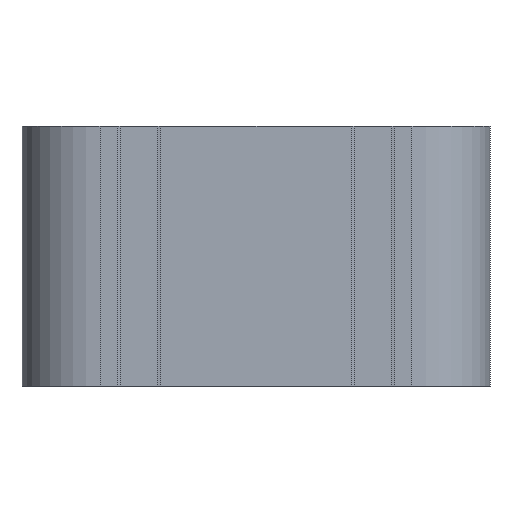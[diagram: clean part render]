
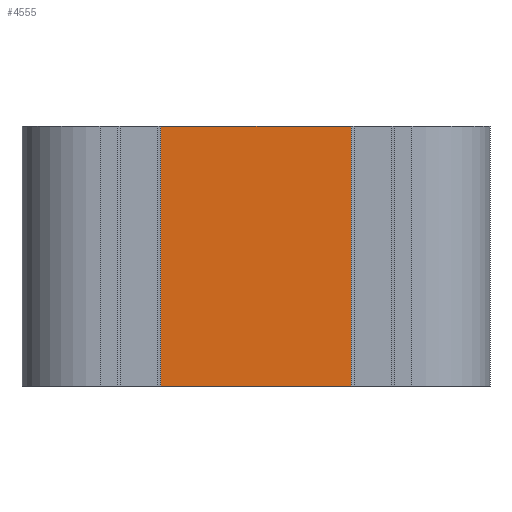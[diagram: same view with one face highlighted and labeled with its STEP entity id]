
A CAD part, front view. The second image highlights one B-rep face of the part: STEP entity #4555.
In plain terms, the highlighted planar face has unit normal (0, -1, 0).
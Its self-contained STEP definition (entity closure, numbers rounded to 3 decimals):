
#255 = DIRECTION ( 'NONE',  ( 0., 0., -1. ) ) ;
#620 = CARTESIAN_POINT ( 'NONE',  ( -19.892, -45.788, 50. ) ) ;
#709 = CARTESIAN_POINT ( 'NONE',  ( 16.802, -45.788, 50. ) ) ;
#887 = ORIENTED_EDGE ( 'NONE', *, *, #5079, .F. ) ;
#937 = AXIS2_PLACEMENT_3D ( 'NONE', #1045, #4296, #4748 ) ;
#954 = CARTESIAN_POINT ( 'NONE',  ( 16.802, -45.788, 50. ) ) ;
#984 = VECTOR ( 'NONE', #2044, 1000. ) ;
#1045 = CARTESIAN_POINT ( 'NONE',  ( -19.892, -45.788, 50. ) ) ;
#1086 = LINE ( 'NONE', #1728, #4331 ) ;
#1101 = CARTESIAN_POINT ( 'NONE',  ( -19.892, -45.788, 0. ) ) ;
#1132 = LINE ( 'NONE', #954, #5961 ) ;
#1670 = ORIENTED_EDGE ( 'NONE', *, *, #3477, .T. ) ;
#1728 = CARTESIAN_POINT ( 'NONE',  ( -19.892, -45.788, 50. ) ) ;
#2044 = DIRECTION ( 'NONE',  ( 1., 0., 0. ) ) ;
#2367 = LINE ( 'NONE', #620, #984 ) ;
#2474 = VERTEX_POINT ( 'NONE', #4800 ) ;
#2992 = EDGE_CURVE ( 'NONE', #3111, #2474, #4607, .T. ) ;
#3111 = VERTEX_POINT ( 'NONE', #3605 ) ;
#3376 = VERTEX_POINT ( 'NONE', #709 ) ;
#3477 = EDGE_CURVE ( 'NONE', #3922, #3111, #1086, .T. ) ;
#3605 = CARTESIAN_POINT ( 'NONE',  ( -19.892, -45.788, 0. ) ) ;
#3767 = EDGE_LOOP ( 'NONE', ( #5815, #4925, #887, #1670 ) ) ;
#3815 = DIRECTION ( 'NONE',  ( 1., 0., 0. ) ) ;
#3922 = VERTEX_POINT ( 'NONE', #4714 ) ;
#4296 = DIRECTION ( 'NONE',  ( 0., 1., 0. ) ) ;
#4304 = EDGE_CURVE ( 'NONE', #3376, #2474, #1132, .T. ) ;
#4331 = VECTOR ( 'NONE', #255, 1000. ) ;
#4555 = ADVANCED_FACE ( 'NONE', ( #5526 ), #4729, .F. ) ;
#4607 = LINE ( 'NONE', #1101, #5244 ) ;
#4714 = CARTESIAN_POINT ( 'NONE',  ( -19.892, -45.788, 50. ) ) ;
#4729 = PLANE ( 'NONE',  #937 ) ;
#4748 = DIRECTION ( 'NONE',  ( 0., 0., 1. ) ) ;
#4800 = CARTESIAN_POINT ( 'NONE',  ( 16.802, -45.788, 0. ) ) ;
#4925 = ORIENTED_EDGE ( 'NONE', *, *, #4304, .F. ) ;
#5079 = EDGE_CURVE ( 'NONE', #3922, #3376, #2367, .T. ) ;
#5244 = VECTOR ( 'NONE', #3815, 1000. ) ;
#5526 = FACE_OUTER_BOUND ( 'NONE', #3767, .T. ) ;
#5815 = ORIENTED_EDGE ( 'NONE', *, *, #2992, .T. ) ;
#5960 = DIRECTION ( 'NONE',  ( 0., 0., -1. ) ) ;
#5961 = VECTOR ( 'NONE', #5960, 1000. ) ;
